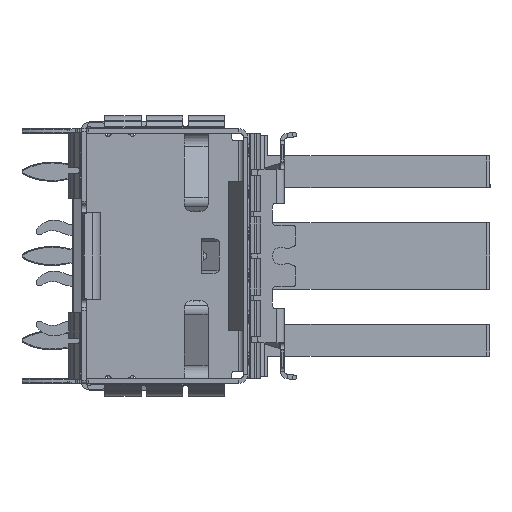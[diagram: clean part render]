
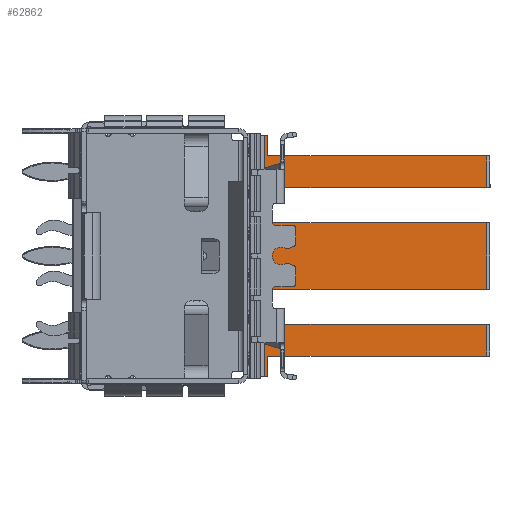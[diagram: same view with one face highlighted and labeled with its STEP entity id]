
A CAD part, left-side view. The second image highlights one B-rep face of the part: STEP entity #62862.
In plain terms, the highlighted planar face has unit normal (-0.999, -0.035, 0).
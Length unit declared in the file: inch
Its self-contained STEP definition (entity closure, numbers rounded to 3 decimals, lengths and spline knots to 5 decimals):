
#7002 = CARTESIAN_POINT ( 'NONE',  ( -0.90311, -0.72996, -0.11417 ) ) ;
#7093 = CARTESIAN_POINT ( 'NONE',  ( -0.90311, -0.72996, 0.19292 ) ) ;
#7312 = CARTESIAN_POINT ( 'NONE',  ( -0.90311, -0.72996, -0.18504 ) ) ;
#7372 = CARTESIAN_POINT ( 'NONE',  ( -0.92024, -0.23953, 0.19292 ) ) ;
#7422 = CARTESIAN_POINT ( 'NONE',  ( -0.92024, -0.23953, -0.11417 ) ) ;
#7462 = CARTESIAN_POINT ( 'NONE',  ( -0.90311, -0.72996, -0.03543 ) ) ;
#7511 = CARTESIAN_POINT ( 'NONE',  ( -0.90311, -0.72996, 0.11418 ) ) ;
#7553 = CARTESIAN_POINT ( 'NONE',  ( -0.92024, -0.23953, -0.23031 ) ) ;
#7554 = CARTESIAN_POINT ( 'NONE',  ( -0.92051, -0.23166, -0.23031 ) ) ;
#9865 = PLANE ( 'NONE',  #11050 ) ;
#9869 = DIRECTION ( 'NONE',  ( 0.999, 0.035, 0. ) ) ;
#9870 = DIRECTION ( 'NONE',  ( -0.035, 0.999, 0. ) ) ;
#9893 = CARTESIAN_POINT ( 'NONE',  ( -0.92051, -0.23166, -0.23031 ) ) ;
#10531 = CARTESIAN_POINT ( 'NONE',  ( -0.92024, -0.23953, 0.26378 ) ) ;
#10546 = CARTESIAN_POINT ( 'NONE',  ( -0.92024, -0.23953, -0.18504 ) ) ;
#10567 = CARTESIAN_POINT ( 'NONE',  ( -0.92024, -0.23953, -0.03543 ) ) ;
#10569 = CARTESIAN_POINT ( 'NONE',  ( -0.92024, -0.23953, 0.11418 ) ) ;
#11050 = AXIS2_PLACEMENT_3D ( 'NONE', #9893, #9869, #9870 ) ;
#12793 = FACE_OUTER_BOUND ( 'NONE', #59060, .T. ) ;
#35979 = DIRECTION ( 'NONE',  ( -0.035, 0.999, 0. ) ) ;
#36014 = CARTESIAN_POINT ( 'NONE',  ( -0.92051, -0.23166, 0.30906 ) ) ;
#36360 = VECTOR ( 'NONE', #38272, 39.37008 ) ;
#36382 = LINE ( 'NONE', #38254, #36360 ) ;
#36817 = VECTOR ( 'NONE', #35979, 39.37008 ) ;
#36833 = LINE ( 'NONE', #36014, #36817 ) ;
#36953 = VECTOR ( 'NONE', #38400, 39.37008 ) ;
#36976 = LINE ( 'NONE', #38410, #36953 ) ;
#37099 = LINE ( 'NONE', #37689, #37101 ) ;
#37101 = VECTOR ( 'NONE', #37699, 39.37008 ) ;
#37115 = LINE ( 'NONE', #37822, #37126 ) ;
#37126 = VECTOR ( 'NONE', #37798, 39.37008 ) ;
#37256 = VECTOR ( 'NONE', #37973, 39.37008 ) ;
#37283 = LINE ( 'NONE', #37926, #37256 ) ;
#37374 = VECTOR ( 'NONE', #38091, 39.37008 ) ;
#37376 = LINE ( 'NONE', #38055, #37411 ) ;
#37377 = LINE ( 'NONE', #38064, #37379 ) ;
#37379 = VECTOR ( 'NONE', #38073, 39.37008 ) ;
#37393 = LINE ( 'NONE', #38116, #37403 ) ;
#37394 = LINE ( 'NONE', #38104, #37374 ) ;
#37397 = VECTOR ( 'NONE', #38097, 39.37008 ) ;
#37403 = VECTOR ( 'NONE', #38117, 39.37008 ) ;
#37410 = LINE ( 'NONE', #38102, #37397 ) ;
#37411 = VECTOR ( 'NONE', #38079, 39.37008 ) ;
#37435 = VECTOR ( 'NONE', #38148, 39.37008 ) ;
#37440 = LINE ( 'NONE', #38176, #37457 ) ;
#37443 = LINE ( 'NONE', #38122, #37435 ) ;
#37449 = LINE ( 'NONE', #38133, #37460 ) ;
#37457 = VECTOR ( 'NONE', #38165, 39.37008 ) ;
#37460 = VECTOR ( 'NONE', #38120, 39.37008 ) ;
#37464 = LINE ( 'NONE', #38131, #37482 ) ;
#37482 = VECTOR ( 'NONE', #38159, 39.37008 ) ;
#37494 = LINE ( 'NONE', #38181, #37520 ) ;
#37520 = VECTOR ( 'NONE', #38184, 39.37008 ) ;
#37689 = CARTESIAN_POINT ( 'NONE',  ( -0.90311, -0.72996, -0.23031 ) ) ;
#37699 = DIRECTION ( 'NONE',  ( 0., 0., 1. ) ) ;
#37798 = DIRECTION ( 'NONE',  ( -0.035, 0.999, 0. ) ) ;
#37822 = CARTESIAN_POINT ( 'NONE',  ( -0.919, -0.27491, -0.23031 ) ) ;
#37926 = CARTESIAN_POINT ( 'NONE',  ( -0.92051, -0.23166, -0.23031 ) ) ;
#37973 = DIRECTION ( 'NONE',  ( 0., 0., -1. ) ) ;
#38055 = CARTESIAN_POINT ( 'NONE',  ( -0.92051, -0.23166, -0.03543 ) ) ;
#38064 = CARTESIAN_POINT ( 'NONE',  ( -0.92024, -0.23953, -0.23031 ) ) ;
#38073 = DIRECTION ( 'NONE',  ( 0., 0., -1. ) ) ;
#38079 = DIRECTION ( 'NONE',  ( 0.035, -0.999, 0. ) ) ;
#38091 = DIRECTION ( 'NONE',  ( -0.035, 0.999, 0. ) ) ;
#38097 = DIRECTION ( 'NONE',  ( 0., 0., -1. ) ) ;
#38102 = CARTESIAN_POINT ( 'NONE',  ( -0.92024, -0.23953, -0.23031 ) ) ;
#38104 = CARTESIAN_POINT ( 'NONE',  ( -0.92051, -0.23166, 0.11418 ) ) ;
#38116 = CARTESIAN_POINT ( 'NONE',  ( -0.92051, -0.23166, -0.11417 ) ) ;
#38117 = DIRECTION ( 'NONE',  ( -0.035, 0.999, 0. ) ) ;
#38120 = DIRECTION ( 'NONE',  ( -0.035, 0.999, 0. ) ) ;
#38122 = CARTESIAN_POINT ( 'NONE',  ( -0.92024, -0.23953, -0.23031 ) ) ;
#38131 = CARTESIAN_POINT ( 'NONE',  ( -0.92051, -0.23166, -0.18504 ) ) ;
#38133 = CARTESIAN_POINT ( 'NONE',  ( -0.92051, -0.23166, 0.26378 ) ) ;
#38148 = DIRECTION ( 'NONE',  ( 0., 0., -1. ) ) ;
#38159 = DIRECTION ( 'NONE',  ( 0.035, -0.999, 0. ) ) ;
#38165 = DIRECTION ( 'NONE',  ( 0., 0., -1. ) ) ;
#38176 = CARTESIAN_POINT ( 'NONE',  ( -0.92024, -0.23953, -0.23031 ) ) ;
#38181 = CARTESIAN_POINT ( 'NONE',  ( -0.92051, -0.23166, 0.19292 ) ) ;
#38184 = DIRECTION ( 'NONE',  ( 0.035, -0.999, 0. ) ) ;
#38254 = CARTESIAN_POINT ( 'NONE',  ( -0.90311, -0.72996, -0.23031 ) ) ;
#38272 = DIRECTION ( 'NONE',  ( 0., 0., 1. ) ) ;
#38400 = DIRECTION ( 'NONE',  ( 0., 0., 1. ) ) ;
#38410 = CARTESIAN_POINT ( 'NONE',  ( -0.90311, -0.72996, -0.23031 ) ) ;
#42821 = ORIENTED_EDGE ( 'NONE', *, *, #67384, .T. ) ;
#42843 = ORIENTED_EDGE ( 'NONE', *, *, #67436, .T. ) ;
#42850 = ORIENTED_EDGE ( 'NONE', *, *, #67430, .F. ) ;
#42856 = ORIENTED_EDGE ( 'NONE', *, *, #67342, .F. ) ;
#42861 = ORIENTED_EDGE ( 'NONE', *, *, #67408, .T. ) ;
#42869 = ORIENTED_EDGE ( 'NONE', *, *, #67519, .T. ) ;
#42878 = ORIENTED_EDGE ( 'NONE', *, *, #67369, .F. ) ;
#42880 = ORIENTED_EDGE ( 'NONE', *, *, #67336, .T. ) ;
#42897 = ORIENTED_EDGE ( 'NONE', *, *, #67203, .T. ) ;
#42898 = ORIENTED_EDGE ( 'NONE', *, *, #66986, .F. ) ;
#42906 = ORIENTED_EDGE ( 'NONE', *, *, #66454, .T. ) ;
#42920 = ORIENTED_EDGE ( 'NONE', *, *, #66851, .T. ) ;
#42926 = ORIENTED_EDGE ( 'NONE', *, *, #67604, .T. ) ;
#42927 = ORIENTED_EDGE ( 'NONE', *, *, #67455, .T. ) ;
#42928 = ORIENTED_EDGE ( 'NONE', *, *, #67515, .F. ) ;
#42936 = ORIENTED_EDGE ( 'NONE', *, *, #66663, .T. ) ;
#59060 = EDGE_LOOP ( 'NONE', ( #42936, #42843, #42928, #42906, #42897, #42898, #42850, #42927, #42920, #42861, #42856, #42880, #42926, #42821, #42878, #42869 ) ) ;
#60449 = VERTEX_POINT ( 'NONE', #103044 ) ;
#60456 = VERTEX_POINT ( 'NONE', #103089 ) ;
#60460 = VERTEX_POINT ( 'NONE', #103107 ) ;
#62862 = ADVANCED_FACE ( 'NONE', ( #12793 ), #9865, .F. ) ;
#66454 = EDGE_CURVE ( 'NONE', #60456, #60449, #36833, .T. ) ;
#66663 = EDGE_CURVE ( 'NONE', #73385, #60460, #36976, .T. ) ;
#66851 = EDGE_CURVE ( 'NONE', #73530, #73381, #37099, .T. ) ;
#66986 = EDGE_CURVE ( 'NONE', #73558, #73587, #37115, .T. ) ;
#67203 = EDGE_CURVE ( 'NONE', #60449, #73587, #37283, .T. ) ;
#67336 = EDGE_CURVE ( 'NONE', #73658, #73591, #37376, .T. ) ;
#67342 = EDGE_CURVE ( 'NONE', #73658, #73554, #37377, .T. ) ;
#67369 = EDGE_CURVE ( 'NONE', #73545, #73623, #37410, .T. ) ;
#67384 = EDGE_CURVE ( 'NONE', #73563, #73623, #37394, .T. ) ;
#67408 = EDGE_CURVE ( 'NONE', #73381, #73554, #37393, .T. ) ;
#67430 = EDGE_CURVE ( 'NONE', #73656, #73558, #37443, .T. ) ;
#67436 = EDGE_CURVE ( 'NONE', #60460, #73630, #37449, .T. ) ;
#67455 = EDGE_CURVE ( 'NONE', #73656, #73530, #37464, .T. ) ;
#67515 = EDGE_CURVE ( 'NONE', #60456, #73630, #37440, .T. ) ;
#67519 = EDGE_CURVE ( 'NONE', #73545, #73385, #37494, .T. ) ;
#67604 = EDGE_CURVE ( 'NONE', #73591, #73563, #36382, .T. ) ;
#73381 = VERTEX_POINT ( 'NONE', #7002 ) ;
#73385 = VERTEX_POINT ( 'NONE', #7093 ) ;
#73530 = VERTEX_POINT ( 'NONE', #7312 ) ;
#73545 = VERTEX_POINT ( 'NONE', #7372 ) ;
#73554 = VERTEX_POINT ( 'NONE', #7422 ) ;
#73558 = VERTEX_POINT ( 'NONE', #7553 ) ;
#73563 = VERTEX_POINT ( 'NONE', #7511 ) ;
#73587 = VERTEX_POINT ( 'NONE', #7554 ) ;
#73591 = VERTEX_POINT ( 'NONE', #7462 ) ;
#73623 = VERTEX_POINT ( 'NONE', #10569 ) ;
#73630 = VERTEX_POINT ( 'NONE', #10531 ) ;
#73656 = VERTEX_POINT ( 'NONE', #10546 ) ;
#73658 = VERTEX_POINT ( 'NONE', #10567 ) ;
#103044 = CARTESIAN_POINT ( 'NONE',  ( -0.92051, -0.23166, 0.30906 ) ) ;
#103089 = CARTESIAN_POINT ( 'NONE',  ( -0.92024, -0.23953, 0.30906 ) ) ;
#103107 = CARTESIAN_POINT ( 'NONE',  ( -0.90311, -0.72996, 0.26378 ) ) ;
